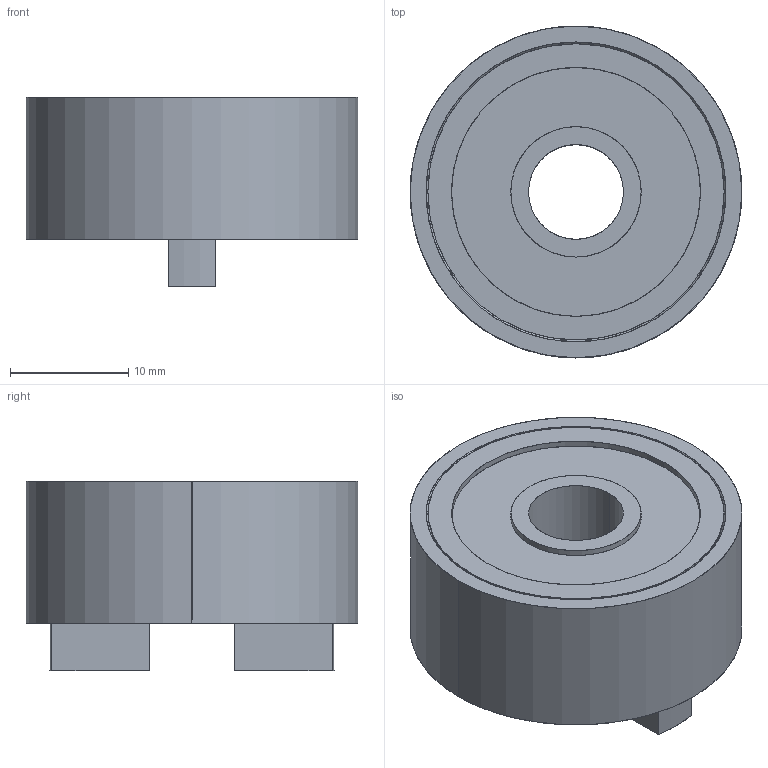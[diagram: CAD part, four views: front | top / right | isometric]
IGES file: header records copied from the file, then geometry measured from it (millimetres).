
Start section: SolidWorks IGES file using analytic representation for surfaces
Global section: file name: C:\3D-DATA\型式\R\【提出用】\IGS\FFD-28SS.IGS; native system: SolidWorks 2014; preprocessor: SolidWorks 2014; author: flgijutsu; date: 140516.195234; units: millimetre
Bounding box: 28 x 28 x 16 mm (x, y, z)
Surface area: 3142.5 mm2 (no closed solid volume)
Topology: 0 solids, 0 shells, 107 faces, 1128 edges, 1128 vertices
Faces by surface type: revolution 68, bspline 39
